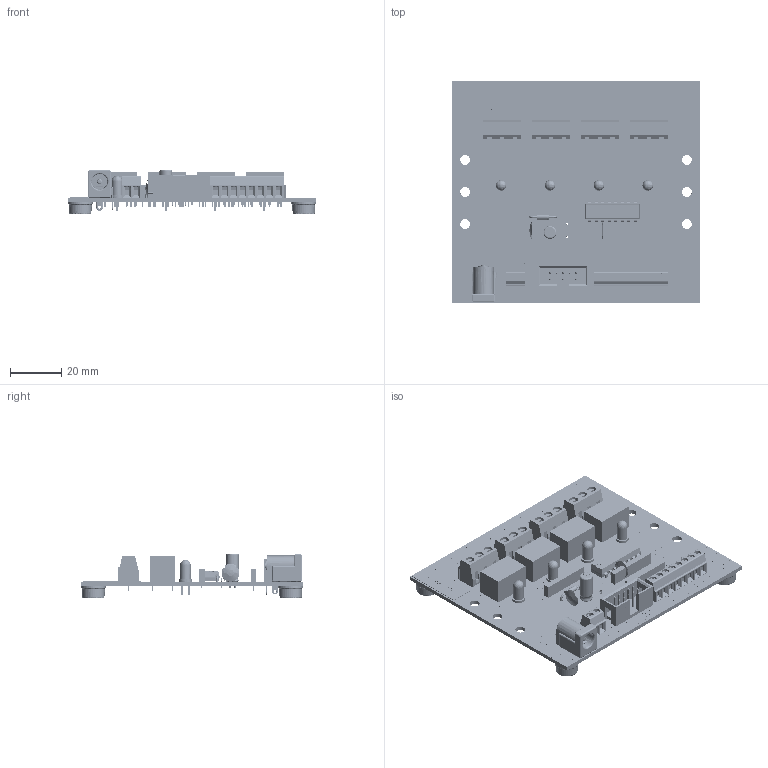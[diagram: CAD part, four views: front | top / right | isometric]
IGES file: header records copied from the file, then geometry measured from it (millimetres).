
Start section: SolidWorks IGES file using analytic representation for surfaces
Global section: file name: W:\end-user\products\rly\rly30x\rly304\3dmodel\rev_c\render\rly304-xxv-ft_rev_c.igs; native system: SolidWorks 2018; preprocessor: SolidWorks 2018; author: leviroy; date: 220725.140601; units: inch
Bounding box: 96.52 x 86.36 x 17.41 mm (x, y, z)
Surface area: 39113.8 mm2 (no closed solid volume)
Topology: 0 solids, 0 shells, 4770 faces, 43718 edges, 43699 vertices
Faces by surface type: bspline 4128, revolution 642
